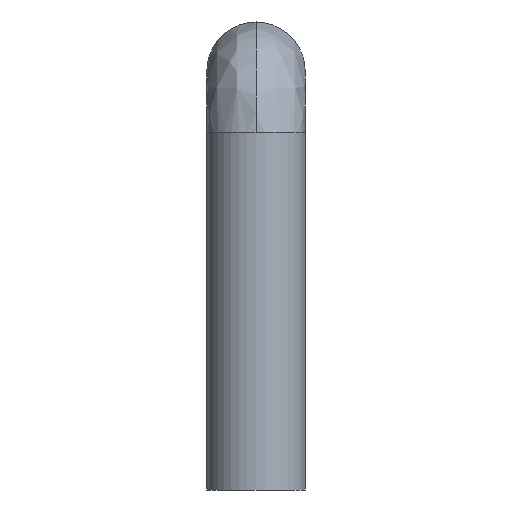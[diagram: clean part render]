
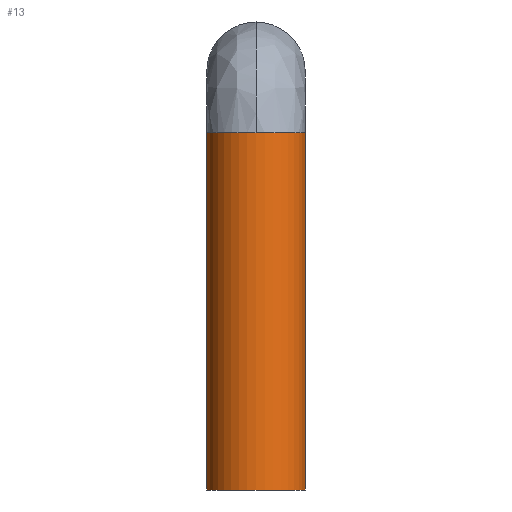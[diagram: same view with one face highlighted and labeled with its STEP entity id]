
A CAD part, front view. The second image highlights one B-rep face of the part: STEP entity #13.
In plain terms, the highlighted cylindrical face has radius 4 mm (diameter 8 mm), a partial arc.
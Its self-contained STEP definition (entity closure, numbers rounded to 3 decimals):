
#10 = CARTESIAN_POINT ( 'NONE',  ( 0., -100., 29. ) ) ;
#13 = ADVANCED_FACE ( 'NONE', ( #361 ), #209, .T. ) ;
#28 = CARTESIAN_POINT ( 'NONE',  ( 0., -100., 29. ) ) ;
#39 = AXIS2_PLACEMENT_3D ( 'NONE', #366, #574, #359 ) ;
#42 = ORIENTED_EDGE ( 'NONE', *, *, #661, .F. ) ;
#74 = CARTESIAN_POINT ( 'NONE',  ( 4., -100., 29. ) ) ;
#96 = EDGE_CURVE ( 'NONE', #378, #288, #152, .T. ) ;
#104 = DIRECTION ( 'NONE',  ( 0., 0., 1. ) ) ;
#120 = CARTESIAN_POINT ( 'NONE',  ( 4., -100., 0. ) ) ;
#131 = EDGE_CURVE ( 'NONE', #276, #378, #290, .T. ) ;
#152 = LINE ( 'NONE', #201, #251 ) ;
#201 = CARTESIAN_POINT ( 'NONE',  ( -4., -100., 0. ) ) ;
#209 = CYLINDRICAL_SURFACE ( 'NONE', #221, 4. ) ;
#220 = VERTEX_POINT ( 'NONE', #74 ) ;
#221 = AXIS2_PLACEMENT_3D ( 'NONE', #412, #263, #258 ) ;
#227 = VERTEX_POINT ( 'NONE', #624 ) ;
#244 = DIRECTION ( 'NONE',  ( 0., 0., 1. ) ) ;
#245 = EDGE_LOOP ( 'NONE', ( #273, #293, #584, #632, #42 ) ) ;
#251 = VECTOR ( 'NONE', #104, 1000. ) ;
#252 = CARTESIAN_POINT ( 'NONE',  ( -4., -100., 0. ) ) ;
#258 = DIRECTION ( 'NONE',  ( 1., 0., 0. ) ) ;
#263 = DIRECTION ( 'NONE',  ( 0., 0., 1. ) ) ;
#273 = ORIENTED_EDGE ( 'NONE', *, *, #96, .F. ) ;
#276 = VERTEX_POINT ( 'NONE', #120 ) ;
#288 = VERTEX_POINT ( 'NONE', #367 ) ;
#290 = CIRCLE ( 'NONE', #39, 4. ) ;
#293 = ORIENTED_EDGE ( 'NONE', *, *, #131, .F. ) ;
#295 = DIRECTION ( 'NONE',  ( 0., -1., 0. ) ) ;
#330 = EDGE_CURVE ( 'NONE', #227, #220, #440, .T. ) ;
#359 = DIRECTION ( 'NONE',  ( -1., 0., 0. ) ) ;
#361 = FACE_OUTER_BOUND ( 'NONE', #245, .T. ) ;
#366 = CARTESIAN_POINT ( 'NONE',  ( 0., -100., 0. ) ) ;
#367 = CARTESIAN_POINT ( 'NONE',  ( -4., -100., 29. ) ) ;
#378 = VERTEX_POINT ( 'NONE', #252 ) ;
#391 = LINE ( 'NONE', #597, #639 ) ;
#412 = CARTESIAN_POINT ( 'NONE',  ( 0., -100., 0. ) ) ;
#440 = CIRCLE ( 'NONE', #621, 4. ) ;
#539 = DIRECTION ( 'NONE',  ( 0., -1., 0. ) ) ;
#553 = DIRECTION ( 'NONE',  ( 0., 0., 1. ) ) ;
#564 = AXIS2_PLACEMENT_3D ( 'NONE', #28, #244, #295 ) ;
#574 = DIRECTION ( 'NONE',  ( 0., 0., -1. ) ) ;
#579 = DIRECTION ( 'NONE',  ( 0., 0., 1. ) ) ;
#584 = ORIENTED_EDGE ( 'NONE', *, *, #587, .T. ) ;
#587 = EDGE_CURVE ( 'NONE', #276, #220, #391, .T. ) ;
#597 = CARTESIAN_POINT ( 'NONE',  ( 4., -100., 0. ) ) ;
#612 = CIRCLE ( 'NONE', #564, 4. ) ;
#621 = AXIS2_PLACEMENT_3D ( 'NONE', #10, #553, #539 ) ;
#624 = CARTESIAN_POINT ( 'NONE',  ( 0., -104., 29. ) ) ;
#632 = ORIENTED_EDGE ( 'NONE', *, *, #330, .F. ) ;
#639 = VECTOR ( 'NONE', #579, 1000. ) ;
#661 = EDGE_CURVE ( 'NONE', #288, #227, #612, .T. ) ;
